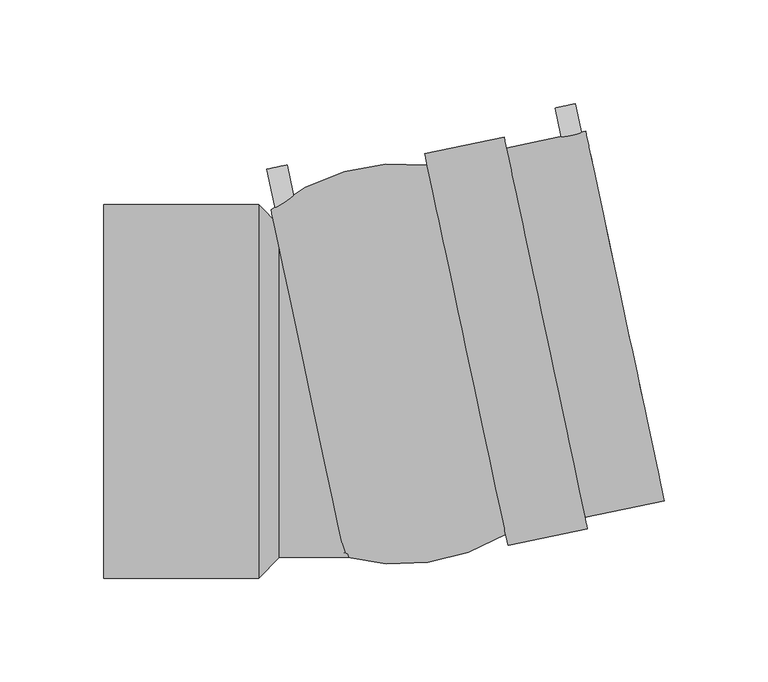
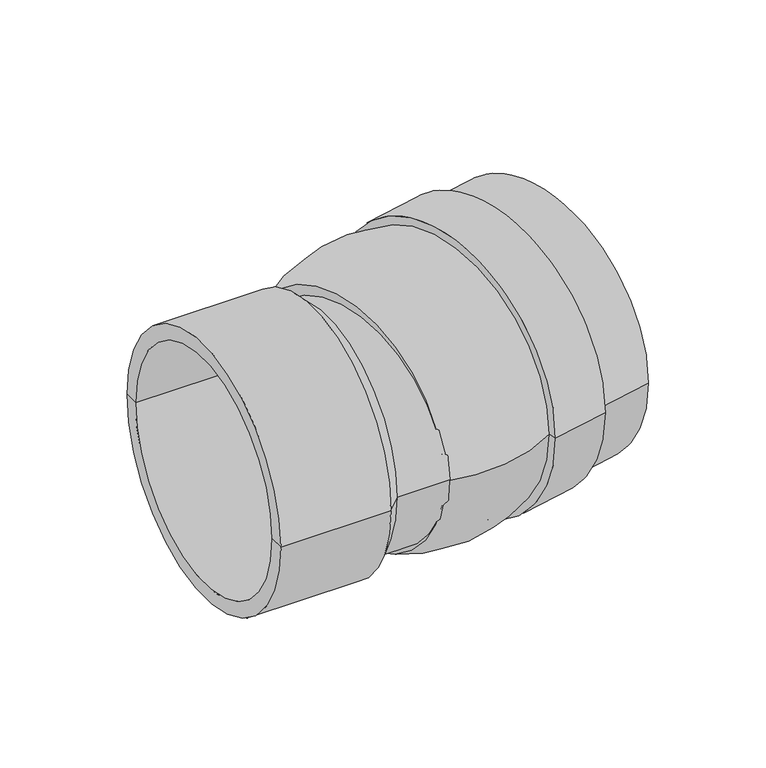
"""IFC4 building model written with IfcOpenShell, lengths in millimetres: pipe fitting geometry, Plumbing_Pipe-Fittings_Plasson_Wastewater-Adjustable-Elbow-PE-to-PVC_4747V4 : Plumbing_Pipe-Fittings_Plasson_Wastewater-Adjustable-Elbow-PE-to-PVC_4747V4."""

from ifc_helpers import new_model, si_unit, point, frame, frame_2d, origin, place, context, project, spatial, polyline, circle_curve, ellipse_curve, trimmed, segment, composite_curve, outline, extrude, source, transform, mapped, element, save
from ifc_brep_helpers import plane_surface, cylinder_surface, revolved_surface, advanced_brep


def pipe_fitting_21f630c9(model_context):
    return source(origin(), model_context, "Body", "SolidModel", [
        advanced_brep(
        [(-80.0, -90.0, 0.0), (-80.0, 90.0, 0.0), (-5.5, 90.0, 0.0), (-5.5, -90.0, 0.0), (-80.0, -80.0, 0.0), (-80.0, 80.0, 0.0), (80.0, -80.0, 0.0), (80.0, 80.0, 0.0), (80.0, 0.0, 0.0), (4.5, -80.0, 0.0), (4.5, 80.0, 0.0), (0.0, -80.0, 0.0), (0.0, 80.0, 0.0), (0.0, 0.0, 0.0)],
        [
            (0, 1, circle_curve(frame((-80.0, 0.0, 0.0), z_axis=(1.0, 0.0, 0.0), x_axis=(0.0, 1.0, 0.0)), 90.0)),
            (1, 2),
            (2, 3, circle_curve(frame((-5.5, 0.0, 0.0), z_axis=(-1.0, 0.0, 0.0), x_axis=(0.0, 1.0, 0.0)), 90.0)),
            (3, 0),
            (1, 0, circle_curve(frame((-80.0, 0.0, 0.0), z_axis=(1.0, 0.0, 0.0), x_axis=(0.0, 1.0, 0.0)), 90.0)),
            (3, 2, circle_curve(frame((-5.5, 0.0, 0.0), z_axis=(-1.0, 0.0, 0.0), x_axis=(0.0, 1.0, 0.0)), 90.0)),
            (4, 5, circle_curve(frame((-80.0, 0.0, 0.0), z_axis=(1.0, 0.0, 0.0), x_axis=(0.0, 1.0, 0.0)), 80.0)),
            (5, 1),
            (0, 4),
            (5, 4, circle_curve(frame((-80.0, 0.0, 0.0), z_axis=(1.0, 0.0, 0.0), x_axis=(0.0, 1.0, 0.0)), 80.0)),
            (6, 7, circle_curve(frame((80.0, 0.0, 0.0), z_axis=(1.0, 0.0, 0.0), x_axis=(0.0, 1.0, 0.0)), 80.0)),
            (7, 8),
            (8, 6),
            (7, 6, circle_curve(frame((80.0, 0.0, 0.0), z_axis=(1.0, 0.0, 0.0), x_axis=(0.0, 1.0, 0.0)), 80.0)),
            (9, 10, circle_curve(frame((4.5, 0.0, 0.0), z_axis=(1.0, 0.0, 0.0), x_axis=(0.0, 1.0, 0.0)), 80.0)),
            (10, 7),
            (6, 9),
            (10, 9, circle_curve(frame((4.5, 0.0, 0.0), z_axis=(1.0, 0.0, 0.0), x_axis=(0.0, 1.0, 0.0)), 80.0)),
            (2, 10),
            (9, 3),
            (11, 12, circle_curve(frame((0.0, 0.0, 0.0), z_axis=(1.0, 0.0, 0.0), x_axis=(0.0, 1.0, 0.0)), 80.0)),
            (12, 5),
            (4, 11),
            (12, 11, circle_curve(frame((0.0, 0.0, 0.0), z_axis=(1.0, 0.0, 0.0), x_axis=(0.0, 1.0, 0.0)), 80.0)),
            (13, 12),
            (11, 13),
        ],
        [
            cylinder_surface(frame((-105.0, 0.0, 0.0), z_axis=(-1.0, 0.0, 0.0), x_axis=(0.0, 1.0, 0.0)), 90.0),
            plane_surface(frame((-80.0, 0.0, 0.0), z_axis=(-1.0, 0.0, 0.0), x_axis=(0.0, 1.0, 0.0))),
            plane_surface(frame((80.0, 0.0, 0.0), z_axis=(1.0, 0.0, 0.0), x_axis=(0.0, 1.0, 0.0))),
            cylinder_surface(frame((-105.0, 0.0, 0.0), z_axis=(-1.0, 0.0, 0.0), x_axis=(0.0, 1.0, 0.0)), 80.0),
            revolved_surface(polyline([(4.5, 80.0, 0.0), (-5.5, 90.0, 0.0)]), (-105.0, 0.0, 0.0), (-1.0, 0.0, 0.0)),
            revolved_surface(polyline([(-80.0, 80.0, 0.0), (0.0, 80.0, 0.0)]), (-105.0, 0.0, 0.0), (-1.0, 0.0, 0.0)),
            plane_surface(frame((0.0, 0.0, 0.0), z_axis=(-1.0, 0.0, 0.0), x_axis=(0.0, 1.0, 0.0))),
        ],
        [
            (0, [[1, 2, 3, 4]]),
            (0, [[5, -4, 6, -2]]),
            (1, [[7, 8, -1, 9]]),
            (1, [[10, -9, -5, -8]]),
            (2, [[11, 12, 13]]),
            (2, [[14, -13, -12]]),
            (3, [[15, 16, -11, 17]]),
            (3, [[18, -17, -14, -16]]),
            (4, [[-3, 19, -15, 20]]),
            (4, [[-6, -20, -18, -19]]),
            (5, [[21, 22, -7, 23]]),
            (5, [[24, -23, -10, -22]]),
            (6, [[25, -21, 26]]),
            (6, [[-26, -24, -25]]),
        ],
    ),
        extrude(outline(composite_curve([segment(trimmed(circle_curve(frame_2d((0.0, -5.0)), 5.0), [point((0.0, -10.0))], [point((0.0, 0.0))], False, "CARTESIAN"), True, "CONTINUOUS"), segment(trimmed(circle_curve(frame_2d((0.0, -5.0)), 5.0), [point((0.0, 0.0))], [point((0.0, -10.0))], False, "CARTESIAN"), True, "CONTINUOUS")], self_intersect=False)), frame((13.4433349, 84.6447166, 0.0), z_axis=(-0.20791169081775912, 0.9781476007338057, 0.0), x_axis=(0.0, 0.0, 1.0)), (0.0, 0.0, 1.0), 25.0),
        extrude(outline(composite_curve([segment(trimmed(circle_curve(frame_2d((0.0, 137.0)), 5.0), [point((0.0, 132.0))], [point((0.0, 142.0))], False, "CARTESIAN"), True, "CONTINUOUS"), segment(trimmed(circle_curve(frame_2d((0.0, 137.0)), 5.0), [point((0.0, 142.0))], [point((0.0, 132.0))], False, "CARTESIAN"), True, "CONTINUOUS")], self_intersect=False)), frame((13.4433349, 84.6447166, 0.0), z_axis=(-0.20791169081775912, 0.9781476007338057, 0.0), x_axis=(0.0, 0.0, 1.0)), (0.0, 0.0, 1.0), 25.0),
        advanced_brep(
        [(189.8494885, -52.6792396, 0.0), (152.0095608, 125.3436237, 0.0), (154.2965894, 114.5840001, 0.0), (187.5624599, -41.919616, 0.0), (151.7017321, -60.7877956, 0.0), (113.8618044, 117.2350678, 0.0), (114.69749, -74.2761633, 0.0), (74.5705337, 114.5063236, 0.0), (112.7182901, 122.6148796, 0.0), (152.8452464, -66.1676074, 0.0), (18.338499, 3.8979683, 0.0), (0.5620494, 87.5295881, 0.0), (36.1149485, -79.7336516, 0.0), (78.0010766, 98.3668882, 0.0), (111.2669471, -58.1367279, 0.0), (94.6340118, 20.1150802, 0.0), (113.5539757, -68.8963515, 0.0), (75.714048, 109.1265118, 0.0)],
        [
            (0, 1, circle_curve(frame((170.9295247, 36.3321921, 0.0), z_axis=(0.9781476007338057, 0.20791169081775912, 0.0), x_axis=(-0.20791169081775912, 0.9781476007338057, 0.0)), 91.0)),
            (1, 2),
            (2, 3, circle_curve(frame((170.9295247, 36.3321921, 0.0), z_axis=(-0.9781476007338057, -0.20791169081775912, 0.0), x_axis=(-0.20791169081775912, 0.9781476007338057, 0.0)), 80.0)),
            (3, 0),
            (1, 0, circle_curve(frame((170.9295247, 36.3321921, 0.0), z_axis=(0.9781476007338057, 0.20791169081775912, 0.0), x_axis=(-0.20791169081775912, 0.9781476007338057, 0.0)), 91.0)),
            (3, 2, circle_curve(frame((170.9295247, 36.3321921, 0.0), z_axis=(-0.9781476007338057, -0.20791169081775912, 0.0), x_axis=(-0.20791169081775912, 0.9781476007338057, 0.0)), 80.0)),
            (4, 5, circle_curve(frame((132.7817683, 28.2236361, 0.0), z_axis=(0.9781476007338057, 0.20791169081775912, 0.0), x_axis=(-0.20791169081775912, 0.9781476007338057, 0.0)), 91.0)),
            (5, 1),
            (0, 4),
            (5, 4, circle_curve(frame((132.7817683, 28.2236361, 0.0), z_axis=(0.9781476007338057, 0.20791169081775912, 0.0), x_axis=(-0.20791169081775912, 0.9781476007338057, 0.0)), 91.0)),
            (6, 7, circle_curve(frame((94.6340118, 20.1150802, 0.0), z_axis=(0.9781476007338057, 0.20791169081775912, 0.0), x_axis=(-0.20791169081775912, 0.9781476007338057, 0.0)), 96.5)),
            (7, 8),
            (8, 9, circle_curve(frame((132.7817683, 28.2236361, 0.0), z_axis=(-0.9781476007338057, -0.20791169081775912, 0.0), x_axis=(-0.20791169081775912, 0.9781476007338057, 0.0)), 96.5)),
            (9, 6),
            (7, 6, circle_curve(frame((94.6340118, 20.1150802, 0.0), z_axis=(0.9781476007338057, 0.20791169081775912, 0.0), x_axis=(-0.20791169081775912, 0.9781476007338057, 0.0)), 96.5)),
            (9, 8, circle_curve(frame((132.7817683, 28.2236361, 0.0), z_axis=(-0.9781476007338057, -0.20791169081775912, 0.0), x_axis=(-0.20791169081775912, 0.9781476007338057, 0.0)), 96.5)),
            (10, 11),
            (11, 12, circle_curve(frame((18.338499, 3.8979683, 0.0), z_axis=(-0.9781476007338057, -0.20791169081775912, 0.0), x_axis=(-0.20791169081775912, 0.9781476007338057, 0.0)), 85.5)),
            (12, 10),
            (12, 11, circle_curve(frame((18.338499, 3.8979683, 0.0), z_axis=(-0.9781476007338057, -0.20791169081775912, 0.0), x_axis=(-0.20791169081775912, 0.9781476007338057, 0.0)), 85.5)),
            (2, 13),
            (13, 14, circle_curve(frame((94.6340118, 20.1150802, 0.0), z_axis=(-0.9781476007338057, -0.20791169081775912, 0.0), x_axis=(-0.20791169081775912, 0.9781476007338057, 0.0)), 80.0)),
            (14, 3),
            (14, 13, circle_curve(frame((94.6340118, 20.1150802, 0.0), z_axis=(-0.9781476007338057, -0.20791169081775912, 0.0), x_axis=(-0.20791169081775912, 0.9781476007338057, 0.0)), 80.0)),
            (13, 15),
            (15, 14),
            (8, 5),
            (4, 9),
            (16, 17, circle_curve(frame((94.6340118, 20.1150802, 0.0), z_axis=(0.9781476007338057, 0.20791169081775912, 0.0), x_axis=(-0.20791169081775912, 0.9781476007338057, 0.0)), 91.0)),
            (17, 7),
            (6, 16),
            (17, 16, circle_curve(frame((94.6340118, 20.1150802, 0.0), z_axis=(0.9781476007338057, 0.20791169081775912, 0.0), x_axis=(-0.20791169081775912, 0.9781476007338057, 0.0)), 91.0)),
            (11, 17, circle_curve(frame((63.337542, 10.6399924, 0.0), z_axis=(0.0, 0.0, -1.0), x_axis=(0.9781476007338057, 0.20791169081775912, 0.0)), 99.2611325)),
            (16, 12, circle_curve(frame((62.1893986, 16.0415825, 0.0), z_axis=(0.0, 0.0, -1.0), x_axis=(0.9781476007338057, 0.20791169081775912, 0.0)), 99.2611325)),
        ],
        [
            plane_surface(frame((170.9295247, 36.3321921, 0.0), z_axis=(0.9781476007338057, 0.20791169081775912, 0.0), x_axis=(-0.20791169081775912, 0.9781476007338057, 0.0))),
            cylinder_surface(frame((187.1657194, 39.7833018, 0.0), z_axis=(-0.9781476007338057, -0.20791169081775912, 0.0), x_axis=(-0.20791169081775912, 0.9781476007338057, 0.0)), 91.0),
            cylinder_surface(frame((187.1657194, 39.7833018, 0.0), z_axis=(-0.9781476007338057, -0.20791169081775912, 0.0), x_axis=(-0.20791169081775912, 0.9781476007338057, 0.0)), 96.5),
            plane_surface(frame((18.338499, 3.8979683, 0.0), z_axis=(-0.9781476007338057, -0.20791169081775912, 0.0), x_axis=(-0.20791169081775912, 0.9781476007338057, 0.0))),
            revolved_surface(polyline([(78.00107653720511, 98.36688824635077, 0.0), (154.29658943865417, 114.58400013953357, 0.0)]), (187.1657194, 39.7833018, 0.0), (-0.9781476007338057, -0.20791169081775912, 0.0)),
            plane_surface(frame((94.6340118, 20.1150802, 0.0), z_axis=(0.9781476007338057, 0.20791169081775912, 0.0), x_axis=(-0.20791169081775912, 0.9781476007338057, 0.0))),
            plane_surface(frame((132.7817683, 28.2236361, 0.0), z_axis=(0.9781476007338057, 0.20791169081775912, 0.0), x_axis=(-0.20791169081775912, 0.9781476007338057, 0.0))),
            plane_surface(frame((94.6340118, 20.1150802, 0.0), z_axis=(-0.9781476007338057, -0.20791169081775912, 0.0), x_axis=(-0.20791169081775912, 0.9781476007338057, 0.0))),
            revolved_surface(trimmed(ellipse_curve(frame((63.337542, 10.6399924, 0.0), z_axis=(0.0, 0.0, 1.0), x_axis=(0.9781476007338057, 0.20791169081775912, 0.0)), 99.2611325, 99.2611325), [point((75.714048, 109.1265118, 0.0))], [point((0.5620494, 87.5295881, 0.0))], True, "CARTESIAN"), (187.1657194, 39.7833018, 0.0), (-0.9781476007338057, -0.20791169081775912, 0.0)),
        ],
        [
            (0, [[1, 2, 3, 4]]),
            (0, [[5, -4, 6, -2]]),
            (1, [[7, 8, -1, 9]]),
            (1, [[10, -9, -5, -8]]),
            (2, [[11, 12, 13, 14]]),
            (2, [[15, -14, 16, -12]]),
            (3, [[17, 18, 19]]),
            (3, [[-19, 20, -17]]),
            (4, [[-3, 21, 22, 23]]),
            (4, [[-6, -23, 24, -21]]),
            (5, [[-22, 25, 26]]),
            (5, [[-24, -26, -25]]),
            (6, [[-13, 27, -7, 28]]),
            (6, [[-16, -28, -10, -27]]),
            (7, [[29, 30, -11, 31]]),
            (7, [[32, -31, -15, -30]]),
            (8, [[-18, 33, -29, 34]]),
            (8, [[-20, -34, -32, -33]]),
        ],
    ),
    ])


if __name__ == "__main__":
    model = new_model("IFC4")
    model_context = context("Model", 3, world=origin())
    ifc_project = project(units=[si_unit("LENGTHUNIT", "METRE", prefix="MILLI")], contexts=[model_context])
    site = spatial("IfcSite", under=ifc_project)
    building = spatial("IfcBuilding", under=site)
    placement = place(None, origin())
    pipe_fitting_shape = pipe_fitting_21f630c9(model_context)
    element("IfcPipeFitting", 1, ObjectType="Plumbing_Pipe-Fittings_Plasson_Wastewater-Adjustable-Elbow-PE-to-PVC_4747V4 : Plumbing_Pipe-Fittings_Plasson_Wastewater-Adjustable-Elbow-PE-to-PVC_4747V4", at=placement, inside=building, context=model_context, shape_type="MappedRepresentation", body=[
        mapped(pipe_fitting_shape, transform((0.0, 0.0, 0.0), x_axis=(1.0, 0.0, 0.0), y_axis=(0.0, 1.0, 0.0), z_axis=(0.0, 0.0, 1.0))),
    ])
    save(model, "model.ifc")
